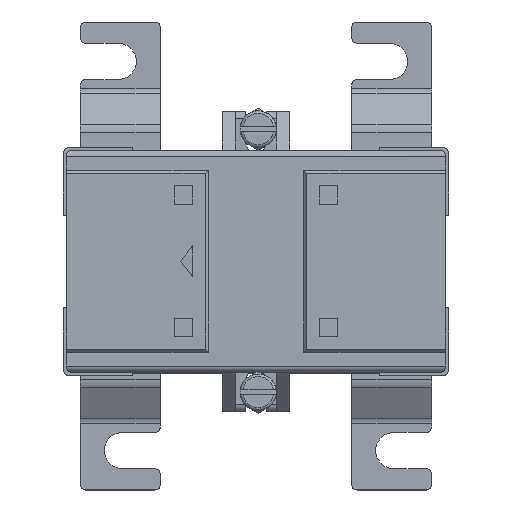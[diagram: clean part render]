
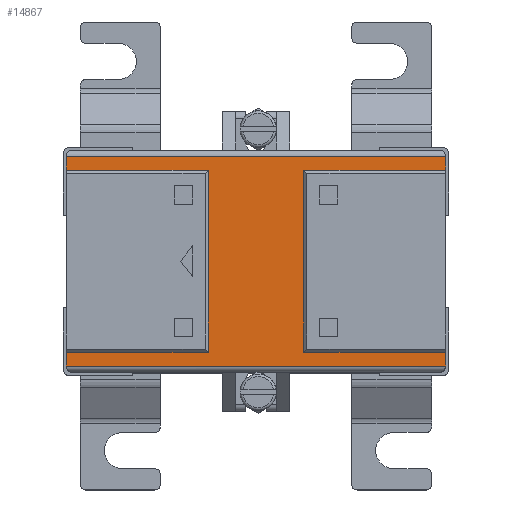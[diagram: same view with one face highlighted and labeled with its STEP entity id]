
A CAD part, top view. The second image highlights one B-rep face of the part: STEP entity #14867.
In plain terms, the highlighted planar face has unit normal (0, 0, 1).
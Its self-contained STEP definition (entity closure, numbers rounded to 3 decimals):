
#1205=PLANE('',#16200);
#1980=FACE_OUTER_BOUND('',#2827,.T.);
#2827=EDGE_LOOP('',(#12473,#12474,#12475,#12476,#12477,#12478,#12479,#12480,
#12481,#12482,#12483,#12484));
#3723=LINE('',#41069,#5312);
#3727=LINE('',#41077,#5316);
#3878=LINE('',#41466,#5467);
#3882=LINE('',#41474,#5471);
#3972=LINE('',#41703,#5561);
#4163=LINE('',#42215,#5752);
#4164=LINE('',#42221,#5753);
#4165=LINE('',#42223,#5754);
#4166=LINE('',#42224,#5755);
#4167=LINE('',#42226,#5756);
#4168=LINE('',#42228,#5757);
#4169=LINE('',#42229,#5758);
#5312=VECTOR('',#18265,1.);
#5316=VECTOR('',#18269,1.);
#5467=VECTOR('',#18590,1.);
#5471=VECTOR('',#18594,1.);
#5561=VECTOR('',#18786,1.);
#5752=VECTOR('',#19271,1.);
#5753=VECTOR('',#19280,1.);
#5754=VECTOR('',#19281,1.);
#5755=VECTOR('',#19282,1.);
#5756=VECTOR('',#19283,1.);
#5757=VECTOR('',#19284,1.);
#5758=VECTOR('',#19285,1.);
#7045=VERTEX_POINT('',#41066);
#7046=VERTEX_POINT('',#41068);
#7049=VERTEX_POINT('',#41074);
#7050=VERTEX_POINT('',#41076);
#7202=VERTEX_POINT('',#41463);
#7203=VERTEX_POINT('',#41465);
#7206=VERTEX_POINT('',#41471);
#7207=VERTEX_POINT('',#41473);
#7470=VERTEX_POINT('',#42220);
#7471=VERTEX_POINT('',#42222);
#7472=VERTEX_POINT('',#42225);
#7473=VERTEX_POINT('',#42227);
#8716=EDGE_CURVE('',#7046,#7045,#3723,.T.);
#8720=EDGE_CURVE('',#7050,#7049,#3727,.T.);
#8915=EDGE_CURVE('',#7202,#7203,#3878,.T.);
#8919=EDGE_CURVE('',#7206,#7207,#3882,.T.);
#9035=EDGE_CURVE('',#7050,#7202,#3972,.T.);
#9296=EDGE_CURVE('',#7207,#7045,#4163,.T.);
#9299=EDGE_CURVE('',#7049,#7470,#4164,.T.);
#9300=EDGE_CURVE('',#7470,#7471,#4165,.T.);
#9301=EDGE_CURVE('',#7471,#7046,#4166,.T.);
#9302=EDGE_CURVE('',#7206,#7472,#4167,.T.);
#9303=EDGE_CURVE('',#7472,#7473,#4168,.T.);
#9304=EDGE_CURVE('',#7473,#7203,#4169,.T.);
#12473=ORIENTED_EDGE('',*,*,#9035,.F.);
#12474=ORIENTED_EDGE('',*,*,#8720,.T.);
#12475=ORIENTED_EDGE('',*,*,#9299,.T.);
#12476=ORIENTED_EDGE('',*,*,#9300,.T.);
#12477=ORIENTED_EDGE('',*,*,#9301,.T.);
#12478=ORIENTED_EDGE('',*,*,#8716,.T.);
#12479=ORIENTED_EDGE('',*,*,#9296,.F.);
#12480=ORIENTED_EDGE('',*,*,#8919,.F.);
#12481=ORIENTED_EDGE('',*,*,#9302,.T.);
#12482=ORIENTED_EDGE('',*,*,#9303,.T.);
#12483=ORIENTED_EDGE('',*,*,#9304,.T.);
#12484=ORIENTED_EDGE('',*,*,#8915,.F.);
#14867=ADVANCED_FACE('',(#1980),#1205,.T.);
#16200=AXIS2_PLACEMENT_3D('',#42219,#19278,#19279);
#18265=DIRECTION('',(0.,-1.,0.));
#18269=DIRECTION('',(0.,-1.,0.));
#18590=DIRECTION('',(0.,-1.,0.));
#18594=DIRECTION('',(0.,-1.,0.));
#18786=DIRECTION('',(1.,0.,0.));
#19271=DIRECTION('',(-1.,0.,0.));
#19278=DIRECTION('center_axis',(0.,0.,1.));
#19279=DIRECTION('ref_axis',(1.,0.,0.));
#19280=DIRECTION('',(1.,0.,0.));
#19281=DIRECTION('',(0.,-1.,0.));
#19282=DIRECTION('',(-1.,0.,0.));
#19283=DIRECTION('',(-1.,0.,0.));
#19284=DIRECTION('',(0.,1.,0.));
#19285=DIRECTION('',(1.,0.,0.));
#41066=CARTESIAN_POINT('',(1710.583,-1174.757,-80.023));
#41068=CARTESIAN_POINT('',(1710.583,-1172.507,-80.023));
#41069=CARTESIAN_POINT('',(1710.583,-1139.757,-80.023));
#41074=CARTESIAN_POINT('',(1710.583,-1143.007,-80.023));
#41076=CARTESIAN_POINT('',(1710.583,-1140.757,-80.023));
#41077=CARTESIAN_POINT('',(1710.583,-1139.757,-80.023));
#41463=CARTESIAN_POINT('',(1772.083,-1140.757,-80.023));
#41465=CARTESIAN_POINT('',(1772.083,-1143.007,-80.023));
#41466=CARTESIAN_POINT('',(1772.083,-1139.757,-80.023));
#41471=CARTESIAN_POINT('',(1772.083,-1172.507,-80.023));
#41473=CARTESIAN_POINT('',(1772.083,-1174.757,-80.023));
#41474=CARTESIAN_POINT('',(1772.083,-1139.757,-80.023));
#41703=CARTESIAN_POINT('',(1725.958,-1140.757,-80.023));
#42215=CARTESIAN_POINT('',(1725.958,-1174.757,-80.023));
#42219=CARTESIAN_POINT('Origin',(1710.583,-1139.757,-80.023));
#42220=CARTESIAN_POINT('',(1733.583,-1143.007,-80.023));
#42221=CARTESIAN_POINT('',(1722.083,-1143.007,-80.023));
#42222=CARTESIAN_POINT('',(1733.583,-1172.507,-80.023));
#42223=CARTESIAN_POINT('',(1733.583,-1156.132,-80.023));
#42224=CARTESIAN_POINT('',(1710.583,-1172.507,-80.023));
#42225=CARTESIAN_POINT('',(1749.083,-1172.507,-80.023));
#42226=CARTESIAN_POINT('',(1741.333,-1172.507,-80.023));
#42227=CARTESIAN_POINT('',(1749.083,-1143.007,-80.023));
#42228=CARTESIAN_POINT('',(1749.083,-1156.132,-80.023));
#42229=CARTESIAN_POINT('',(1729.833,-1143.007,-80.023));
